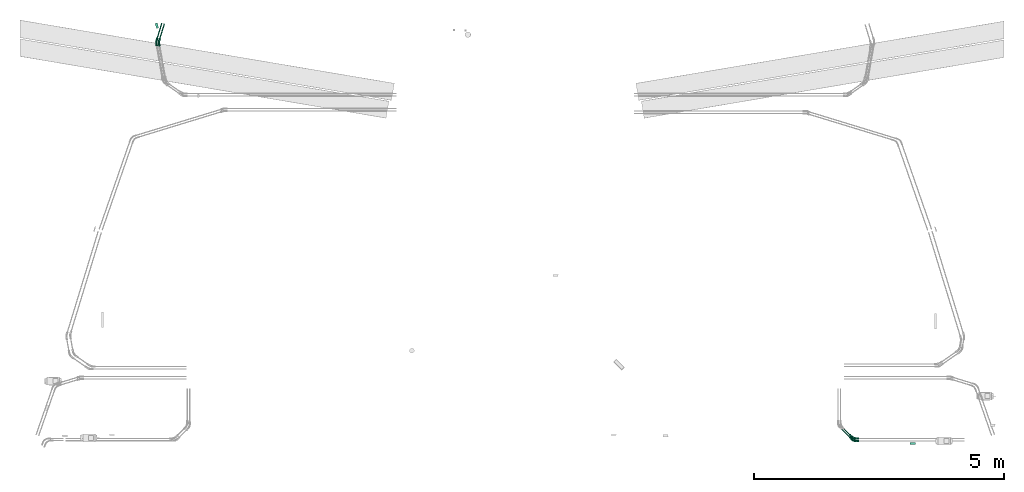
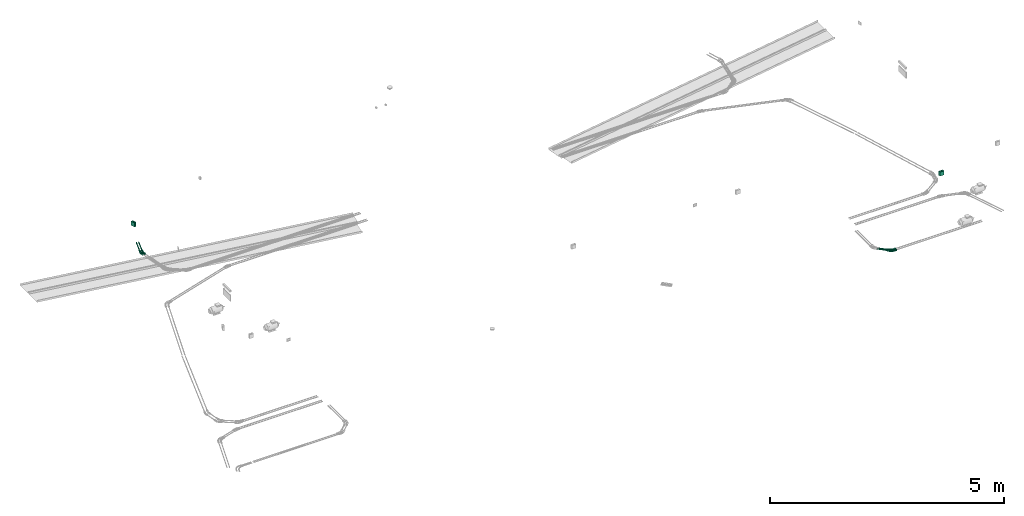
# One storey, part 11 of 22: 6 flow fittings, 4 flow segments.
"""IFC2X3 building model written with IfcOpenShell, lengths in millimetres."""

from ifc_helpers import new_model, entity, si_unit, converted_unit, derived_unit, direction, frame, origin_with_axes, origin_2d_with_axis, place, context, subcontext, project, spatial, hollow_circle, extrude, open_shell, surface_model, source, transform, mapped, type_object, element, save


model = new_model("IFC2X3")

# Units and contexts
model_context = context("Model", 3, precision=0.01, world=frame((0.0, 4.29681676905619e-09, 0.0)), true_north=direction((4.01073788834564e-13, 1.0)))
plan_context = context("Plan", 3, precision=0.01, world=frame((0.0, 4.29681676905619e-09, 0.0)), true_north=direction((4.01073788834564e-13, 1.0)))
body_context = subcontext(model_context, "Body", "Model", "MODEL_VIEW")
ifc_project = project(units=[converted_unit("PLANEANGLEUNIT", "DEGREE", entity("IfcPositiveLengthMeasure", 0.0174532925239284), si_unit("PLANEANGLEUNIT", "RADIAN"), dimensions=[0, 0, 0, 0, 0, 0, 0]), si_unit("AREAUNIT", "SQUARE_METRE"), si_unit("LENGTHUNIT", "METRE", prefix="MILLI"), si_unit("MASSUNIT", "GRAM", prefix="KILO"), si_unit("POWERUNIT", "WATT"), si_unit("PRESSUREUNIT", "PASCAL", prefix="KILO"), si_unit("FORCEUNIT", "NEWTON", prefix="KILO"), si_unit("ELECTRICVOLTAGEUNIT", "VOLT"), si_unit("ELECTRICCURRENTUNIT", "AMPERE"), si_unit("THERMODYNAMICTEMPERATUREUNIT", "DEGREE_CELSIUS"), si_unit("TIMEUNIT", "SECOND"), si_unit("VOLUMEUNIT", "CUBIC_METRE"), derived_unit("LINEARVELOCITYUNIT", [(si_unit("LENGTHUNIT", "METRE"), 1), (si_unit("TIMEUNIT", "SECOND"), -1)]), derived_unit("VOLUMETRICFLOWRATEUNIT", [(si_unit("VOLUMEUNIT", "CUBIC_METRE"), 1), (si_unit("TIMEUNIT", "SECOND"), -1)]), derived_unit("THERMALTRANSMITTANCEUNIT", [(si_unit("POWERUNIT", "WATT"), 1), (si_unit("THERMODYNAMICTEMPERATUREUNIT", "KELVIN"), -1), (si_unit("AREAUNIT", "SQUARE_METRE"), -1)]), derived_unit("SOUNDPRESSUREUNIT", [(si_unit("PRESSUREUNIT", "PASCAL"), 1)])], contexts=[model_context, plan_context])

# Site, building, storey
site_placement = place(None, frame((0.0, -4.29681676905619e-09, 0.0), z_axis=(0.0, 0.0, 1.0), x_axis=(1.0, 0.0, 0.0)))
site = spatial("IfcSite", under=ifc_project, at=site_placement, Name="ENGM", CompositionType="ELEMENT")
building_placement = place(site_placement, frame((0.0, 4.29681676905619e-09, 0.0), z_axis=(0.0, 0.0, 1.0), x_axis=(1.0, 0.0, 0.0)))
building = spatial("IfcBuilding", under=site, at=building_placement, Name="TI", CompositionType="ELEMENT")
storey_placement = place(building_placement, frame((0.0, 0.0, 210900.0), z_axis=(0.0, 0.0, 1.0), x_axis=(1.0, 0.0, 0.0)))
storey = spatial("IfcBuildingStorey", under=building, at=storey_placement, Name="Nivå F", CompositionType="ELEMENT", Elevation=210900.0)

# Flow fittings
cable_carrier_fitting_type = type_object("IfcCableCarrierFittingType", Name="Trekkerør, glatt bend", PredefinedType="BEND")
shared_shape_1 = source(origin_with_axes(), body_context, "Body", "SurfaceModel", [
    surface_model("IfcShellBasedSurfaceModel", [(-78.95754, 8.46055, -14.6541), (-78.95754, 4.3795, -16.34452), (-78.95754, 0.0, -16.92109), (-78.95754, 14.6541, -8.46055), (-78.95754, -8.46055, -14.6541), (-78.95754, 11.96502, -11.96502), (-78.95754, -16.92109, 0.0), (-78.95754, -16.34452, 4.3795), (-78.95754, -11.96502, -11.96502), (-78.95754, -14.6541, -8.46055), (-78.95754, -4.3795, -16.34452), (-78.95754, -16.34452, -4.3795), (-78.95754, 16.92109, 0.0), (-78.95754, 16.34452, -4.3795), (-78.95754, 16.34452, 4.3795), (-78.95754, 14.6541, 8.46055), (-78.95754, 8.46055, 14.6541), (-78.95754, 11.96502, 11.96502), (-78.95754, 0.0, 16.92109), (-78.95754, 4.3795, 16.34452), (-78.95754, -11.96502, 11.96502), (-78.95754, -8.46055, 14.6541), (-78.95754, -14.6541, 8.46055), (-78.95754, -4.3795, 16.34452), (-31.63957, -16.92109, 0.0), (-31.63957, -16.34452, 4.3795), (-31.63957, -14.6541, 8.46055), (-31.63957, -11.96502, 11.96502), (-31.63957, -8.46055, 14.6541), (-31.63957, -4.3795, 16.34452), (-31.63957, 0.0, 16.92109), (-31.63957, 4.3795, 16.34452), (-31.63957, 8.46055, 14.6541), (-31.63957, 11.96502, 11.96502), (-31.63957, 14.6541, 8.46055), (-31.63957, 16.34452, 4.3795), (-31.63957, 16.92109, 0.0), (-31.63957, 16.34452, -4.3795), (-31.63957, 14.6541, -8.46055), (-31.63957, 11.96502, -11.96502), (-31.63957, 8.46055, -14.6541), (-31.63957, 4.3795, -16.34452), (-31.63957, 0.0, -16.92109), (-31.63957, -4.3795, -16.34452), (-31.63957, -8.46055, -14.6541), (-31.63957, -11.96502, -11.96502), (-31.63957, -14.6541, -8.46055), (-31.63957, -16.34452, -4.3795), (1.54545, -6.43726, 13.37501), (-1.10332, -10.22349, 10.24195), (35.61132, -0.19901, 4.3795), (34.84388, 1.30717, 8.46055), (2.78273, -11.59092, 6.39757), (-1.45897, -3.21124, 15.60459), (-0.34065, 1.4189, 16.76603), (-2.18473, 5.5255, 16.78582), (-2.36982, 9.871, 15.66134), (30.17931, 10.4619, 16.34452), (28.19106, 14.36406, 16.92109), (33.62307, 3.70315, 11.96502), (32.03207, 6.82566, 14.6541), (-3.99795, 16.65265, 10.35717), (-3.26542, 13.60146, 13.46853), (-4.51744, 18.81648, 6.53948), (-2.07775, 20.44675, 3.33516), (-5.77387, -14.33246, 3.25985), (3.07595, -12.81224, 0.0), (26.20281, 18.26623, 16.34452), (24.35005, 21.90246, 14.6541), (-4.82435, 20.09488, 0.0), (35.87308, -0.71274, 0.0), (20.7708, 28.92714, 4.3795), (20.50905, 29.44087, 0.0), (22.75906, 25.02497, 11.96502), (21.53824, 27.42096, 8.46055), (-0.34065, 1.4189, -16.76603), (-7.43134, 19.16146, -3.33516), (-0.56192, 5.9151, -16.78582), (-4.51744, 18.81648, -6.53948), (11.65136, -10.14903, -3.25985), (2.78273, -11.59092, -6.39757), (35.61132, -0.19901, -4.3795), (-3.26542, 13.60146, -13.46853), (30.17931, 10.4619, -16.34452), (32.03207, 6.82566, -14.6541), (2.75782, -2.19888, -15.60459), (-2.36982, 9.871, -15.66134), (-3.99795, 16.65265, -10.35717), (21.53824, 27.42096, -8.46055), (1.54545, -6.43726, -13.37501), (5.62444, -8.6083, -10.24195), (20.7708, 28.92714, -4.3795), (22.75906, 25.02497, -11.96502), (24.35005, 21.90246, -14.6541), (33.62307, 3.70315, -11.96502), (34.84388, 1.30717, -8.46055), (26.20281, 18.26623, -16.34452), (28.19106, 14.36406, -16.92109), (68.36343, 39.74814, -16.34452), (72.33993, 31.94381, -16.34452), (70.35168, 35.84597, -16.92109), (63.69886, 48.90287, -8.46055), (66.51067, 43.38437, -14.6541), (64.91967, 46.50688, -11.96502), (77.0045, 22.78908, 8.46055), (77.77193, 21.2829, -4.3795), (75.78368, 25.18506, -11.96502), (74.19269, 28.30757, -14.6541), (77.0045, 22.78908, -8.46055), (78.0337, 20.76917, 0.0), (62.93142, 50.40905, -4.3795), (62.93142, 50.40905, 4.3795), (63.69886, 48.90287, 8.46055), (66.51067, 43.38437, 14.6541), (68.36343, 39.74814, 16.34452), (64.91967, 46.50688, 11.96502), (70.35168, 35.84597, 16.92109), (74.19269, 28.30757, 14.6541), (75.78368, 25.18506, 11.96502), (77.77193, 21.2829, 4.3795), (72.33993, 31.94381, 16.34452), (62.66966, 50.92278, 0.0)], [open_shell([[[0, 1, 2]], [[3, 0, 2]], [[4, 3, 2]], [[5, 0, 3]], [[3, 6, 7]], [[8, 9, 4]], [[2, 10, 4]], [[9, 11, 4]], [[11, 3, 4]], [[3, 11, 6]], [[12, 13, 3]], [[12, 7, 14]], [[14, 7, 15]], [[16, 17, 18]], [[15, 18, 17]], [[18, 19, 16]], [[20, 21, 22]], [[15, 7, 22]], [[23, 18, 21]], [[15, 22, 21]], [[15, 21, 18]], [[3, 7, 12]], [[7, 24, 25]], [[26, 22, 25]], [[21, 27, 28]], [[26, 27, 20]], [[23, 28, 29]], [[24, 7, 6]], [[25, 22, 7]], [[26, 20, 22]], [[27, 21, 20]], [[23, 21, 28]], [[29, 18, 23]], [[29, 30, 18]], [[16, 31, 32]], [[33, 17, 32]], [[14, 34, 35]], [[33, 34, 15]], [[12, 35, 36]], [[31, 19, 30]], [[31, 16, 19]], [[30, 19, 18]], [[32, 17, 16]], [[33, 15, 17]], [[14, 15, 34]], [[35, 12, 14]], [[13, 36, 37]], [[38, 3, 37]], [[0, 39, 40]], [[38, 39, 5]], [[1, 40, 41]], [[36, 13, 12]], [[37, 3, 13]], [[38, 5, 3]], [[39, 0, 5]], [[1, 0, 40]], [[41, 2, 1]], [[41, 42, 2]], [[4, 43, 44]], [[45, 8, 44]], [[11, 46, 47]], [[45, 46, 9]], [[6, 47, 24]], [[43, 10, 42]], [[43, 4, 10]], [[42, 10, 2]], [[44, 8, 4]], [[45, 9, 8]], [[11, 9, 46]], [[47, 6, 11]], [[48, 27, 49]], [[28, 27, 48]], [[27, 26, 49]], [[50, 51, 52]], [[29, 28, 53]], [[53, 54, 29]], [[31, 30, 55]], [[30, 29, 54]], [[56, 31, 55]], [[57, 58, 54]], [[52, 26, 25]], [[59, 60, 48]], [[33, 61, 34]], [[62, 33, 32]], [[51, 49, 52]], [[26, 52, 49]], [[60, 53, 48]], [[63, 64, 35]], [[65, 52, 25]], [[36, 35, 64]], [[35, 34, 63]], [[30, 54, 55]], [[32, 31, 56]], [[28, 48, 53]], [[24, 66, 65]], [[67, 68, 56]], [[53, 60, 57]], [[54, 53, 57]], [[64, 69, 36]], [[55, 67, 56]], [[59, 48, 49]], [[50, 65, 66]], [[59, 49, 51]], [[66, 70, 50]], [[24, 65, 25]], [[64, 63, 71]], [[69, 64, 72]], [[68, 73, 62]], [[56, 62, 32]], [[74, 71, 63]], [[56, 68, 62]], [[73, 74, 61]], [[73, 61, 62]], [[61, 63, 34]], [[61, 74, 63]], [[58, 67, 55]], [[62, 61, 33]], [[72, 64, 71]], [[50, 52, 65]], [[58, 55, 54]], [[43, 42, 75]], [[76, 69, 72]], [[36, 76, 37]], [[77, 42, 41]], [[78, 38, 37]], [[79, 80, 81]], [[39, 82, 40]], [[83, 84, 85]], [[41, 40, 86]], [[78, 37, 76]], [[87, 78, 88]], [[38, 87, 39]], [[66, 24, 47]], [[47, 80, 79]], [[89, 45, 44]], [[47, 79, 66]], [[47, 46, 80]], [[46, 45, 90]], [[43, 85, 44]], [[43, 75, 85]], [[36, 69, 76]], [[70, 79, 81]], [[72, 91, 76]], [[41, 86, 77]], [[45, 89, 90]], [[88, 78, 91]], [[82, 92, 93]], [[94, 95, 90]], [[93, 96, 86]], [[82, 39, 87]], [[86, 82, 93]], [[92, 87, 88]], [[87, 38, 78]], [[86, 96, 77]], [[83, 85, 75]], [[97, 75, 77]], [[44, 85, 89]], [[89, 84, 94]], [[95, 81, 80]], [[46, 90, 80]], [[70, 66, 79]], [[96, 97, 77]], [[95, 80, 90]], [[94, 90, 89]], [[84, 89, 85]], [[83, 75, 97]], [[42, 77, 75]], [[91, 78, 76]], [[82, 87, 92]], [[86, 40, 82]], [[98, 99, 100]], [[101, 98, 102]], [[99, 98, 101]], [[101, 102, 103]], [[101, 104, 105]], [[99, 106, 107]], [[106, 99, 105]], [[106, 105, 108]], [[99, 101, 105]], [[105, 104, 109]], [[101, 110, 111]], [[111, 112, 101]], [[101, 112, 104]], [[113, 114, 112]], [[113, 112, 115]], [[116, 112, 114]], [[104, 117, 118]], [[119, 109, 104]], [[117, 116, 120]], [[116, 117, 104]], [[112, 116, 104]], [[121, 111, 110]], [[50, 109, 119]], [[104, 51, 119]], [[60, 118, 117]], [[104, 118, 59]], [[57, 117, 120]], [[109, 50, 70]], [[119, 51, 50]], [[104, 59, 51]], [[118, 60, 59]], [[57, 60, 117]], [[120, 58, 57]], [[120, 116, 58]], [[68, 114, 113]], [[115, 73, 113]], [[71, 112, 111]], [[115, 112, 74]], [[72, 111, 121]], [[114, 67, 116]], [[114, 68, 67]], [[116, 67, 58]], [[113, 73, 68]], [[115, 74, 73]], [[71, 74, 112]], [[111, 72, 71]], [[72, 121, 110]], [[101, 91, 110]], [[102, 98, 96]], [[103, 102, 92]], [[88, 101, 103]], [[101, 88, 91]], [[91, 72, 110]], [[92, 102, 93]], [[93, 102, 96]], [[98, 97, 96]], [[92, 88, 103]], [[98, 100, 97]], [[84, 99, 107]], [[106, 94, 107]], [[81, 108, 105]], [[106, 108, 95]], [[70, 105, 109]], [[99, 83, 100]], [[99, 84, 83]], [[100, 83, 97]], [[107, 94, 84]], [[106, 95, 94]], [[81, 95, 108]], [[105, 70, 81]]])]),
])
for number, where, z_axis, x_axis, name in (
    (1, (584875.26146, 577776.97359, -56.7999999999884), (0.0, 0.0, 1.0), (-0.292371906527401, -0.956304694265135, 0.0), "Trekkerør, glatt bend"),
    (2, (584823.14214, 577784.61842, -56.7999999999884), (0.0, 0.0, 1.0), (-0.292371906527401, -0.956304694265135, 0.0), "Trekkerør, glatt bend"),
):
    element("IfcFlowFitting", number, at=place(storey_placement, frame(where, z_axis=z_axis, x_axis=x_axis)), inside=storey, type_object=cable_carrier_fitting_type, Name=name, context=body_context, shape_type="MappedRepresentation", body=[
        mapped(shared_shape_1, transform((0.0, 0.0, 0.0), scale=1.0)),
    ])
shared_shape_2 = source(origin_with_axes(), body_context, "Body", "SurfaceModel", [
    surface_model("IfcShellBasedSurfaceModel", [(-101.90646, 8.46055, -14.6541), (-101.90646, 4.3795, -16.34452), (-101.90646, 0.0, -16.92109), (-101.90646, -4.3795, -16.34452), (-101.90646, -8.46055, -14.6541), (-101.90646, -14.6541, -8.46055), (-101.90646, 16.92109, 0.0), (-101.90646, -11.96502, -11.96502), (-101.90646, -11.96502, 11.96502), (-101.90646, 14.6541, -8.46055), (-101.90646, 11.96502, -11.96502), (-101.90646, 16.34452, -4.3795), (-101.90646, -16.34452, -4.3795), (-101.90646, -16.92109, 0.0), (-101.90646, -16.34452, 4.3795), (-101.90646, -14.6541, 8.46055), (-101.90646, 0.0, 16.92109), (-101.90646, -8.46055, 14.6541), (-101.90646, -4.3795, 16.34452), (-101.90646, 14.6541, 8.46055), (-101.90646, 8.46055, 14.6541), (-101.90646, 11.96502, 11.96502), (-101.90646, 16.34452, 4.3795), (-101.90646, 4.3795, 16.34452), (-54.58849, 16.34452, 4.3795), (-54.58849, 16.92109, 0.0), (-54.58849, 14.6541, 8.46055), (-54.58849, 8.46055, 14.6541), (-54.58849, 11.96502, 11.96502), (-54.58849, 4.3795, 16.34452), (-54.58849, 0.0, 16.92109), (-54.58849, -8.46055, 14.6541), (-54.58849, -4.3795, 16.34452), (-54.58849, -11.96502, 11.96502), (-54.58849, -16.34452, 4.3795), (-54.58849, -14.6541, 8.46055), (-54.58849, -16.92109, 0.0), (-54.58849, -16.34452, -4.3795), (-54.58849, -14.6541, -8.46055), (-54.58849, -8.46055, -14.6541), (-54.58849, -11.96502, -11.96502), (-54.58849, -4.3795, -16.34452), (-54.58849, 0.0, -16.92109), (-54.58849, 8.46055, -14.6541), (-54.58849, 4.3795, -16.34452), (-54.58849, 11.96502, -11.96502), (-54.58849, 16.34452, -4.3795), (-54.58849, 14.6541, -8.46055), (-16.09967, 11.85394, 0.0), (-13.36235, 10.76027, 3.27049), (10.9245, 1.31078, 3.47544), (22.26214, -21.90343, 16.76352), (38.59989, -38.59989, 16.92109), (41.69667, -35.50312, 16.34452), (-19.66365, 2.12805, 15.57779), (-29.58477, 8.16493, 13.36262), (-20.60685, 9.47816, 10.19127), (-29.40446, -19.36118, 3.4046), (-10.25807, -24.76518, 5.65746), (-34.07223, -17.39409, 6.62821), (-31.22977, 0.25365, 16.76352), (-3.22837, -7.79397, 16.74683), (17.47707, -29.1678, 15.66764), (32.61738, -44.5824, 14.6541), (35.50312, -41.69667, 16.34452), (5.09993, -25.84703, 13.50914), (-25.92736, -13.63005, 13.4985), (-16.62388, -19.5721, 10.43045), (-21.17216, -6.44783, 16.79403), (19.76619, -3.00218, 0.0), (-6.56017, -15.83764, 15.71089), (-32.9829, -8.26659, 15.66764), (47.06044, -30.13935, 11.96502), (48.96191, -28.23788, 8.46055), (19.50033, -6.79523, 10.18462), (-0.14544, -0.35113, 13.28643), (-24.85868, -20.8351, 0.0), (26.69306, -15.14611, 13.36262), (44.5824, -32.61738, 14.6541), (8.93562, -35.31889, 4.60583), (8.9424, -34.00903, 7.47137), (-6.07752, 7.50254, 6.29064), (25.73601, -8.11548, 6.36012), (30.13935, -47.06044, 11.96502), (10.0687, -32.56851, 10.38353), (28.23788, -48.96191, 8.46055), (-30.89964, 14.04008, 5.64535), (16.01237, -12.75836, 15.5789), (12.05401, -20.50658, 16.79305), (50.15722, -27.04257, 4.3795), (32.88314, -11.79305, 2.69799), (50.56491, -26.63487, 0.0), (2.8451, -32.31038, 0.0), (26.63487, -50.56491, 0.0), (27.04257, -50.15722, 4.3795), (-32.9829, -8.26659, -15.66764), (41.69667, -35.50312, -16.34452), (38.59989, -38.59989, -16.92109), (16.55602, -18.09298, -16.75967), (8.69552, -27.97131, -13.4985), (32.61738, -44.5824, -14.6541), (30.13935, -47.06044, -11.96502), (-21.88281, -14.67041, -13.50914), (-6.56017, -15.83764, -15.71089), (-31.29267, -18.65579, -4.60583), (-30.37125, -17.72478, -7.47137), (-10.25807, -24.76517, -5.65746), (-19.1381, 5.92521, -13.33619), (17.63726, -9.2923, -13.33594), (-1.59965, -3.86188, -15.54749), (-30.14906, -15.90977, -10.38353), (-2.08471, -25.59442, -10.43045), (10.41167, -19.53028, -16.79403), (-24.73941, -5.56629, -16.79215), (-28.92763, 11.20296, -10.21852), (-18.36618, 11.17146, -6.33871), (-19.67101, -2.27248, -16.75686), (-22.81878, 13.17372, -3.2081), (17.47707, -29.1678, -15.66764), (-30.36783, 4.42984, -15.59506), (24.60567, -18.34093, -15.59506), (35.50312, -41.69667, -16.34452), (7.10167, -34.48251, -3.4046), (27.04257, -50.15722, -4.3795), (47.06044, -30.13935, -11.96502), (44.5824, -32.61738, -14.6541), (28.23788, -48.96191, -8.46055), (11.79322, -36.39219, -6.62821), (1.03493, 2.49855, -10.11808), (28.37661, -12.53324, -10.21852), (48.96191, -28.23788, -8.46055), (20.88626, -5.08744, -6.33871), (25.45054, -6.82009, -3.2081), (2.19574, 5.30098, -3.30061), (50.15722, -27.04257, -4.3795), (68.96197, -75.15552, -16.34452), (72.05875, -72.05875, -16.92109), (60.50143, -83.61607, -4.3795), (66.07624, -78.04126, -14.6541), (61.69674, -82.42076, -8.46055), (63.5982, -80.51929, -11.96502), (75.15552, -68.96197, -16.34452), (78.04126, -66.07624, -14.6541), (80.51929, -63.5982, -11.96502), (83.61607, -60.50143, -4.3795), (82.42076, -61.69674, -8.46055), (84.02377, -60.09373, 0.0), (83.61607, -60.50143, 4.3795), (75.15552, -68.96197, 16.34452), (61.69674, -82.42076, 8.46055), (60.50143, -83.61607, 4.3795), (66.07624, -78.04126, 14.6541), (72.05875, -72.05875, 16.92109), (63.5982, -80.51929, 11.96502), (68.96197, -75.15552, 16.34452), (82.42076, -61.69674, 8.46055), (80.51929, -63.5982, 11.96502), (78.04126, -66.07624, 14.6541), (60.09373, -84.02377, 0.0)], [open_shell([[[0, 1, 2]], [[2, 3, 4]], [[2, 4, 5]], [[2, 5, 6]], [[5, 4, 7]], [[8, 6, 5]], [[0, 9, 10]], [[0, 11, 9]], [[0, 2, 11]], [[6, 11, 2]], [[5, 12, 8]], [[13, 14, 15]], [[13, 15, 8]], [[16, 6, 17]], [[6, 8, 17]], [[16, 17, 18]], [[19, 20, 21]], [[19, 22, 6]], [[20, 16, 23]], [[20, 19, 6]], [[20, 6, 16]], [[12, 13, 8]], [[24, 25, 22]], [[24, 19, 26]], [[27, 28, 20]], [[21, 28, 26]], [[29, 27, 23]], [[6, 22, 25]], [[22, 19, 24]], [[19, 21, 26]], [[21, 20, 28]], [[27, 20, 23]], [[23, 16, 29]], [[16, 30, 29]], [[31, 32, 17]], [[31, 8, 33]], [[34, 35, 14]], [[15, 35, 33]], [[36, 34, 13]], [[30, 18, 32]], [[18, 17, 32]], [[16, 18, 30]], [[17, 8, 31]], [[8, 15, 33]], [[35, 15, 14]], [[14, 13, 34]], [[37, 36, 12]], [[37, 5, 38]], [[39, 40, 4]], [[7, 40, 38]], [[41, 39, 3]], [[13, 12, 36]], [[12, 5, 37]], [[5, 7, 38]], [[7, 4, 40]], [[39, 4, 3]], [[3, 2, 41]], [[2, 42, 41]], [[43, 44, 0]], [[43, 10, 45]], [[46, 47, 11]], [[9, 47, 45]], [[25, 46, 6]], [[42, 1, 44]], [[1, 0, 44]], [[2, 1, 42]], [[0, 10, 43]], [[10, 9, 45]], [[47, 9, 11]], [[11, 6, 46]], [[48, 49, 50]], [[48, 25, 49]], [[51, 52, 53]], [[54, 27, 29]], [[27, 55, 28]], [[26, 28, 56]], [[57, 58, 59]], [[54, 60, 61]], [[29, 30, 60]], [[62, 63, 64]], [[65, 66, 67]], [[68, 30, 32]], [[69, 48, 50]], [[70, 66, 65]], [[66, 31, 33]], [[59, 58, 67]], [[32, 31, 71]], [[72, 73, 74]], [[75, 74, 56]], [[36, 76, 57]], [[77, 78, 72]], [[57, 34, 36]], [[79, 80, 58]], [[81, 74, 82]], [[68, 71, 70]], [[83, 84, 85]], [[86, 49, 24]], [[67, 33, 35]], [[53, 78, 87]], [[61, 87, 54]], [[81, 56, 74]], [[68, 70, 88]], [[73, 82, 74]], [[89, 82, 73]], [[62, 64, 88]], [[72, 74, 77]], [[68, 88, 61]], [[90, 89, 91]], [[81, 82, 50]], [[75, 56, 55]], [[83, 65, 84]], [[76, 92, 57]], [[56, 86, 26]], [[93, 79, 92]], [[87, 77, 75]], [[94, 80, 79]], [[51, 53, 87]], [[65, 62, 70]], [[30, 68, 60]], [[80, 84, 67]], [[88, 51, 61]], [[83, 63, 65]], [[64, 52, 88]], [[66, 33, 67]], [[54, 87, 75]], [[50, 82, 90]], [[71, 31, 66]], [[27, 54, 55]], [[85, 84, 80]], [[67, 84, 65]], [[28, 55, 56]], [[75, 55, 54]], [[78, 77, 87]], [[75, 77, 74]], [[85, 80, 94]], [[58, 80, 67]], [[94, 79, 93]], [[79, 58, 92]], [[29, 60, 54]], [[61, 60, 68]], [[52, 51, 88]], [[61, 51, 87]], [[49, 81, 50]], [[69, 50, 90]], [[69, 90, 91]], [[89, 90, 82]], [[81, 49, 86]], [[24, 49, 25]], [[81, 86, 56]], [[86, 24, 26]], [[32, 71, 68]], [[70, 71, 66]], [[63, 62, 65]], [[70, 62, 88]], [[35, 34, 59]], [[58, 57, 92]], [[57, 59, 34]], [[35, 59, 67]], [[41, 95, 39]], [[96, 97, 98]], [[99, 100, 101]], [[102, 95, 103]], [[36, 104, 76]], [[37, 105, 104]], [[105, 106, 104]], [[107, 108, 109]], [[110, 111, 105]], [[102, 40, 39]], [[99, 101, 111]], [[112, 103, 113]], [[114, 47, 115]], [[98, 112, 116]], [[117, 46, 25]], [[102, 99, 111]], [[47, 46, 115]], [[118, 100, 99]], [[44, 43, 119]], [[95, 41, 113]], [[114, 45, 47]], [[107, 43, 45]], [[116, 119, 109]], [[113, 116, 112]], [[120, 96, 98]], [[97, 121, 112]], [[92, 76, 122]], [[42, 116, 113]], [[122, 123, 93]], [[108, 124, 125]], [[116, 42, 44]], [[101, 126, 111]], [[99, 102, 103]], [[127, 122, 106]], [[118, 121, 100]], [[107, 114, 128]], [[119, 43, 107]], [[106, 111, 127]], [[108, 107, 128]], [[118, 103, 112]], [[125, 96, 120]], [[98, 97, 112]], [[124, 129, 130]], [[108, 120, 109]], [[113, 41, 42]], [[98, 116, 109]], [[131, 129, 128]], [[115, 131, 128]], [[91, 132, 69]], [[132, 133, 69]], [[133, 117, 48]], [[115, 117, 133]], [[48, 69, 133]], [[131, 134, 130]], [[124, 108, 129]], [[93, 92, 122]], [[40, 102, 110]], [[40, 110, 38]], [[38, 110, 105]], [[111, 110, 102]], [[45, 114, 107]], [[128, 114, 115]], [[130, 129, 131]], [[128, 129, 108]], [[38, 105, 37]], [[106, 105, 111]], [[37, 104, 36]], [[104, 106, 76]], [[44, 119, 116]], [[109, 119, 107]], [[125, 120, 108]], [[109, 120, 98]], [[133, 131, 115]], [[131, 133, 132]], [[39, 95, 102]], [[103, 95, 113]], [[121, 118, 112]], [[103, 118, 99]], [[48, 117, 25]], [[117, 115, 46]], [[132, 134, 131]], [[134, 132, 91]], [[126, 123, 127]], [[106, 122, 76]], [[122, 127, 123]], [[126, 127, 111]], [[135, 136, 137]], [[138, 135, 137]], [[137, 139, 140]], [[138, 137, 140]], [[141, 137, 136]], [[142, 143, 141]], [[144, 141, 143]], [[145, 144, 143]], [[144, 137, 141]], [[146, 147, 144]], [[148, 137, 144]], [[149, 150, 137]], [[137, 151, 149]], [[137, 152, 151]], [[153, 149, 151]], [[152, 154, 151]], [[155, 156, 147]], [[157, 147, 156]], [[157, 148, 147]], [[148, 144, 147]], [[137, 148, 152]], [[158, 137, 150]], [[147, 146, 89]], [[147, 73, 155]], [[157, 156, 78]], [[72, 156, 155]], [[148, 157, 53]], [[91, 89, 146]], [[89, 73, 147]], [[73, 72, 155]], [[72, 78, 156]], [[157, 78, 53]], [[53, 52, 148]], [[52, 152, 148]], [[151, 154, 63]], [[151, 83, 153]], [[150, 149, 94]], [[85, 149, 153]], [[158, 150, 93]], [[152, 64, 154]], [[64, 63, 154]], [[52, 64, 152]], [[63, 83, 151]], [[83, 85, 153]], [[149, 85, 94]], [[94, 93, 150]], [[137, 158, 93]], [[137, 123, 139]], [[121, 135, 138]], [[101, 138, 140]], [[140, 139, 126]], [[123, 126, 139]], [[137, 93, 123]], [[100, 138, 101]], [[121, 138, 100]], [[121, 97, 135]], [[140, 126, 101]], [[97, 136, 135]], [[142, 141, 125]], [[142, 124, 143]], [[144, 145, 134]], [[130, 145, 143]], [[146, 144, 91]], [[136, 96, 141]], [[96, 125, 141]], [[97, 96, 136]], [[125, 124, 142]], [[124, 130, 143]], [[145, 130, 134]], [[134, 91, 144]]])]),
])
for number, where, z_axis, x_axis, name in (
    (3, (598764.61868, 569805.0, -56.7999999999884), (0.0, 0.0, 1.0), (-1.0, 0.0, 0.0), "Trekkerør, glatt bend"),
    (4, (598764.61868, 569855.0, -56.7999999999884), (0.0, 0.0, 1.0), (-1.0, 0.0, 0.0), "Trekkerør, glatt bend"),
):
    element("IfcFlowFitting", number, at=place(storey_placement, frame(where, z_axis=z_axis, x_axis=x_axis)), inside=storey, type_object=cable_carrier_fitting_type, Name=name, context=body_context, shape_type="MappedRepresentation", body=[
        mapped(shared_shape_2, transform((0.0, 0.0, 0.0), scale=1.0)),
    ])
junction_box_type_1 = type_object("IfcJunctionBoxType", Name="Koblingsboks åpen", PredefinedType="NOTDEFINED")
shared_shape_3 = source(origin_with_axes(), body_context, "Body", "SurfaceModel", [
    surface_model("IfcShellBasedSurfaceModel", [(-55.0, 46.0, 55.0), (-55.0, 32.2, 55.0), (55.0, 32.2, 55.0), (55.0, 46.0, 55.0), (55.0, 46.0, -55.0), (55.0, 32.2, -55.0), (-55.0, 32.2, -55.0), (-55.0, 46.0, -55.0), (-52.0, 32.2, 52.0), (-52.0, 0.0, 52.0), (52.0, 0.0, 52.0), (52.0, 32.2, 52.0), (52.0, 32.2, -52.0), (52.0, 0.0, -52.0), (-52.0, 0.0, -52.0), (-52.0, 32.2, -52.0)], [open_shell([[[0, 1, 2]], [[2, 3, 0]], [[4, 5, 6]], [[6, 7, 4]], [[2, 1, 6]], [[6, 5, 2]], [[3, 2, 5]], [[5, 4, 3]], [[0, 3, 4]], [[4, 7, 0]], [[1, 0, 7]], [[7, 6, 1]], [[8, 9, 10]], [[10, 11, 8]], [[12, 13, 14]], [[14, 15, 12]], [[10, 9, 14]], [[14, 13, 10]], [[11, 10, 13]], [[13, 12, 11]], [[8, 11, 12]], [[12, 15, 8]], [[9, 8, 15]], [[15, 14, 9]]])]),
])
flow_fitting_1_placement = place(storey_placement, frame((584816.14977, 578099.33143, 500.0), z_axis=(0.0, 0.0, 1.0), x_axis=(0.292371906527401, -0.956304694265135, 0.0)))
element("IfcFlowFitting", 5, at=flow_fitting_1_placement, inside=storey, type_object=junction_box_type_1, Name="Koblingsboks åpen", context=body_context, shape_type="MappedRepresentation", body=[
    mapped(shared_shape_3, transform((0.0, 0.0, 0.0), scale=1.0)),
])
junction_box_type_2 = type_object("IfcJunctionBoxType", Name="Junction box1", PredefinedType="NOTDEFINED")
flow_fitting_2_placement = place(storey_placement, frame((599947.28311, 569730.0, 1600.0), z_axis=(0.0, 0.0, 1.0), x_axis=(1.0, 0.0, 0.0)))
element("IfcFlowFitting", 6, at=flow_fitting_2_placement, inside=storey, type_object=junction_box_type_2, Name="Junction box1", context=body_context, shape_type="MappedRepresentation", body=[
    mapped(shared_shape_3, transform((0.0, 0.0, 0.0), scale=1.0)),
])

# Flow segments
cable_carrier_segment_type = type_object("IfcCableCarrierSegmentType", Name="Trekkerør, korrugert", PredefinedType="CONDUITSEGMENT")
shared_shape_4 = source(origin_with_axes(), body_context, "Body", "SweptSolid", [
    extrude(hollow_circle(Radius=12.5, WallThickness=2.0, at=origin_2d_with_axis()), frame((0.0, 0.0, 0.0), z_axis=(1.0, 0.0, 0.0), x_axis=(0.0, 1.0, 0.0)), (0.0, 0.0, 1.0), 163.0),
])
flow_segment_1_placement = place(storey_placement, frame((598577.0428, 570042.57588, -56.7999999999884), z_axis=(0.0, 0.0, 1.0), x_axis=(0.707097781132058, -0.707115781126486, 0.0)))
element("IfcFlowSegment", 7, at=flow_segment_1_placement, inside=storey, type_object=cable_carrier_segment_type, Name="Trekkerør, korrugert", context=body_context, shape_type="MappedRepresentation", body=[
    mapped(shared_shape_4, transform((0.0, 0.0, 0.0), scale=1.0)),
])
shared_shape_5 = source(origin_with_axes(), body_context, "Body", "SweptSolid", [
    extrude(hollow_circle(Radius=12.5, WallThickness=2.0, at=origin_2d_with_axis()), frame((0.0, 0.0, 0.0), z_axis=(1.0, 0.0, 0.0), x_axis=(0.0, 1.0, 0.0)), (0.0, 0.0, 1.0), 306.0),
])
flow_segment_2_placement = place(storey_placement, frame((584898.34641, 577852.48105, -56.7999999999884), z_axis=(0.0, 0.0, 1.0), x_axis=(0.292371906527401, 0.956304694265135, 0.0)))
element("IfcFlowSegment", 8, at=flow_segment_2_placement, inside=storey, type_object=cable_carrier_segment_type, Name="Trekkerør, korrugert", context=body_context, shape_type="MappedRepresentation", body=[
    mapped(shared_shape_5, transform((0.0, 0.0, 0.0), scale=1.0)),
])
shared_shape_6 = source(origin_with_axes(), body_context, "Body", "SweptSolid", [
    extrude(hollow_circle(Radius=12.5, WallThickness=2.0, at=origin_2d_with_axis()), frame((0.0, 0.0, 0.0), z_axis=(1.0, 0.0, 0.0), x_axis=(0.0, 1.0, 0.0)), (0.0, 0.0, 1.0), 311.0),
])
flow_segment_3_placement = place(storey_placement, frame((584846.22709, 577860.12589, -56.7999999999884), z_axis=(0.0, 0.0, 1.0), x_axis=(0.292371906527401, 0.956304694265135, 0.0)))
element("IfcFlowSegment", 9, at=flow_segment_3_placement, inside=storey, type_object=cable_carrier_segment_type, Name="Trekkerør, korrugert", context=body_context, shape_type="MappedRepresentation", body=[
    mapped(shared_shape_6, transform((0.0, 0.0, 0.0), scale=1.0)),
])
shared_shape_7 = source(origin_with_axes(), body_context, "Body", "SweptSolid", [
    extrude(hollow_circle(Radius=12.5, WallThickness=2.0, at=origin_2d_with_axis()), frame((0.0, 0.0, 0.0), z_axis=(1.0, 0.0, 0.0), x_axis=(0.0, 1.0, 0.0)), (0.0, 0.0, 1.0), 234.4),
])
flow_segment_4_placement = place(storey_placement, frame((598526.78836, 570042.83032, -56.7999999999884), z_axis=(0.0, 0.0, 1.0), x_axis=(0.707097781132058, -0.707115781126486, 0.0)))
element("IfcFlowSegment", 10, at=flow_segment_4_placement, inside=storey, type_object=cable_carrier_segment_type, Name="Trekkerør, korrugert", context=body_context, shape_type="MappedRepresentation", body=[
    mapped(shared_shape_7, transform((0.0, 0.0, 0.0), scale=1.0)),
])

save(model, "model.ifc")
